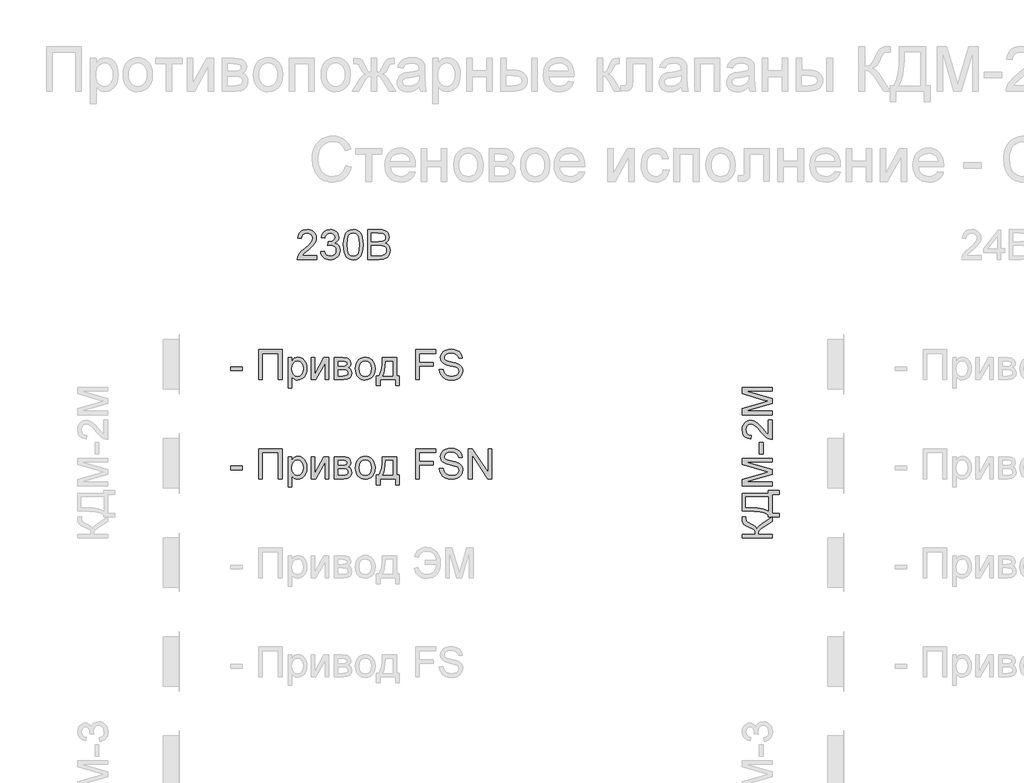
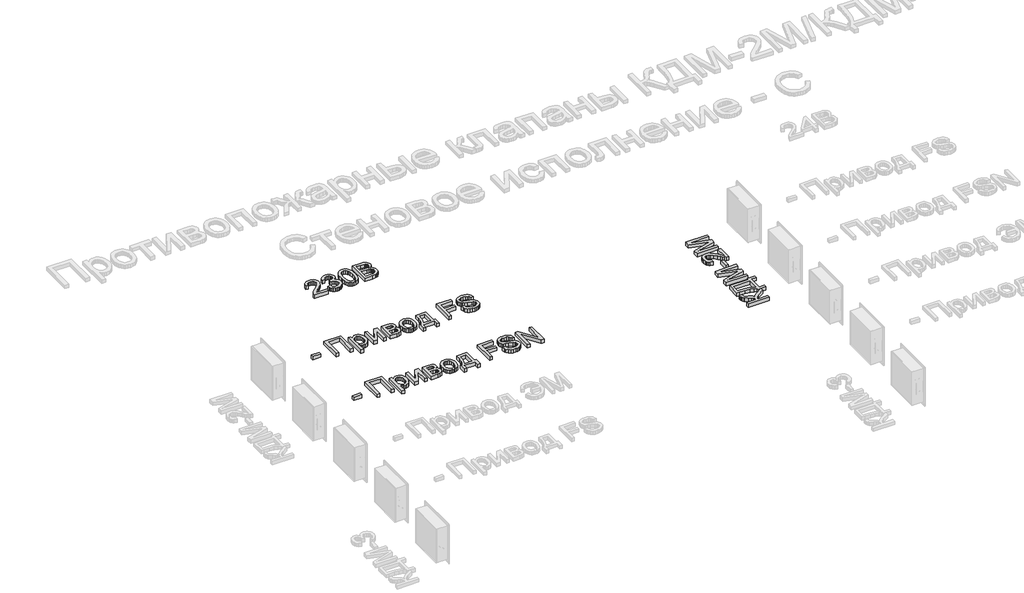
# One storey, part 20 of 23: 4 proxies.
"""IFC4 building model written with IfcOpenShell, lengths in millimetres."""

from ifc_helpers import new_model, si_unit, origin, origin_with_axes, place, context, project, spatial, polyline, outline, extrude, element, save

model = new_model("IFC4")

# Units and contexts
model_context = context("Model", 3, world=origin())
ifc_project = project(units=[si_unit("LENGTHUNIT", "METRE", prefix="MILLI")], contexts=[model_context])

# Site, building, storey
site = spatial("IfcSite", under=ifc_project)
building = spatial("IfcBuilding", under=site)
storey = spatial("IfcBuildingStorey", under=building, Name="Этаж 01", Elevation=0.0)

# Proxies
placement = place(None, origin())
element("IfcBuildingElementProxy", 1, Name="300 мм Arial", ObjectType="300 мм Arial", at=placement, inside=storey, context=model_context, shape_type="SweptSolid", body=[
    extrude(outline(polyline([(17804.7738082, -4434.3206311), (17804.7738082, -4396.6495148), (17922.4960467, -4396.6495148), (17922.4960467, -4434.3206311), (17804.7738082, -4434.3206311)])), origin_with_axes(), (0.0, 0.0, 1.0), 50.0),
    extrude(outline(polyline([(18087.3071805, -4222.4206019), (18322.7516574, -4222.4206019), (18322.7516574, -4523.7895324), (18285.0805411, -4523.7895324), (18285.0805411, -4260.0917182), (18124.9782968, -4260.0917182), (18124.9782968, -4523.7895324), (18087.3071805, -4523.7895324), (18087.3071805, -4222.4206019)])), origin_with_axes(), (0.0, 0.0, 1.0), 50.0),
    extrude(outline(polyline([(18383.9672214, -4608.5495441), (18383.9672214, -4302.4717241), (18421.6383378, -4302.4717241), (18421.6383378, -4339.4070764), (18433.9255964, -4321.1877206), (18447.684383, -4308.173895), (18463.724038, -4300.3655996), (18482.8539017, -4297.7628345), (18508.3297299, -4301.4048663), (18530.6049847, -4312.3309615), (18548.7415671, -4329.8789327), (18561.8013779, -4353.3865922), (18569.6924467, -4381.1432887), (18572.322803, -4411.438371), (18569.3521559, -4443.6556368), (18560.4402145, -4472.469994), (18545.8720875, -4496.4191119), (18525.9328834, -4514.0406595), (18502.7103324, -4524.8839813), (18478.292165, -4528.4984219), (18460.9741201, -4526.0795978), (18445.5138792, -4518.8231254), (18432.2793245, -4507.869439), (18421.6383378, -4494.3589728), (18421.6383378, -4608.5495441), (18383.9672214, -4608.5495441)]), holes=[polyline([(18421.6383378, -4414.8964618), (18425.7126308, -4448.668029), (18437.9355101, -4472.286053), (18455.970925, -4486.1919925), (18477.4828246, -4490.8273056), (18499.3442122, -4486.0264456), (18517.8394795, -4471.6238655), (18530.4486349, -4447.1413187), (18534.6516867, -4412.1005586), (18530.5498024, -4378.5129325), (18518.2441497, -4354.5638146), (18500.236326, -4340.2164168), (18479.027929, -4335.4339508), (18457.7367585, -4340.5199194), (18439.0391561, -4355.7778252), (18425.9885423, -4380.7294215), (18421.6383378, -4414.8964618)])]), origin_with_axes(), (0.0, 0.0, 1.0), 50.0),
    extrude(outline(polyline([(18614.7028088, -4302.4717241), (18652.3739251, -4302.4717241), (18652.3739251, -4471.2559835), (18744.9330351, -4302.4717241), (18793.6406113, -4302.4717241), (18793.6406113, -4523.7895324), (18755.969495, -4523.7895324), (18755.969495, -4356.0353426), (18663.9989962, -4523.7895324), (18614.7028088, -4523.7895324), (18614.7028088, -4302.4717241)])), origin_with_axes(), (0.0, 0.0, 1.0), 50.0),
    extrude(outline(polyline([(18850.1472857, -4302.4717241), (18933.1414638, -4302.4717241), (18959.8221055, -4303.7317199), (18978.6484666, -4307.5117074), (18992.4992238, -4314.6486181), (19004.2530535, -4325.9793836), (19012.2820781, -4340.7406486), (19014.9584196, -4358.1690581), (19013.3397388, -4372.2129533), (19008.4836965, -4384.325468), (19000.3718985, -4394.5617845), (18988.9859507, -4402.9770852), (19002.9286783, -4410.8037746), (19014.296232, -4423.3945359), (19021.856207, -4439.7560876), (19024.3761986, -4458.8951484), (19017.993446, -4487.6083381), (19002.8183137, -4507.8234538), (18978.7956194, -4519.7980127), (18945.8701809, -4523.7895324), (18850.1472857, -4523.7895324), (18850.1472857, -4302.4717241)]), holes=[polyline([(18887.818402, -4486.1184161), (18934.0243806, -4486.1184161), (18959.2059032, -4484.4169618), (18975.0064349, -4479.3125992), (18983.4861149, -4470.0327758), (18986.7050823, -4455.8049397), (18985.0955986, -4446.3779635), (18980.2671474, -4437.6683573), (18972.8543252, -4430.8533433), (18963.4917284, -4427.110144), (18930.3455607, -4424.9028521), (18887.818402, -4424.9028521), (18887.818402, -4486.1184161)]), polyline([(18887.818402, -4387.2317358), (18925.04806, -4387.2317358), (18955.7662065, -4385.3187494), (18970.7022156, -4377.6668039), (18975.6410313, -4371.3392336), (18977.2873033, -4363.8344409), (18974.3994296, -4352.5956459), (18965.7358086, -4345.3667647), (18950.0824297, -4341.4488215), (18926.2252823, -4340.1428404), (18887.818402, -4340.1428404), (18887.818402, -4387.2317358)])]), origin_with_axes(), (0.0, 0.0, 1.0), 50.0),
    extrude(outline(polyline([(19062.047315, -4413.1306282), (19064.0844615, -4384.4680223), (19070.1959011, -4359.7693448), (19080.3816339, -4339.0345959), (19094.6416597, -4322.2637754), (19108.9982546, -4311.5446138), (19124.8447715, -4303.8880698), (19142.1812106, -4299.2941433), (19161.0075717, -4297.7628345), (19181.7906051, -4299.6275364), (19200.5824773, -4305.221642), (19217.3831882, -4314.5451513), (19232.1927377, -4327.5980643), (19244.2799605, -4343.9389227), (19252.9136911, -4363.126268), (19258.0939294, -4385.1601003), (19259.8206756, -4410.0404195), (19256.767255, -4448.0978119), (19247.6069933, -4477.068519), (19232.606605, -4498.7643596), (19212.0328044, -4514.9971527), (19187.5962429, -4525.1231046), (19161.0075717, -4528.4984219), (19139.9210355, -4526.6406178), (19120.9544194, -4521.0672056), (19104.1077233, -4511.7781852), (19089.3809472, -4498.7735567), (19077.4224831, -4482.2740492), (19068.880723, -4462.500392), (19063.755667, -4439.452585), (19062.047315, -4413.1306282)]), holes=[polyline([(19099.7184313, -4413.0570518), (19104.0778329, -4447.1505157), (19117.1560378, -4471.4399245), (19136.8377246, -4485.9804603), (19161.0075717, -4490.8273056), (19185.0670541, -4485.9528692), (19204.7119527, -4471.3295599), (19217.7901576, -4446.7182544), (19222.1495593, -4411.8798294), (19217.7625665, -4378.7796469), (19204.6015881, -4354.821332), (19184.9290984, -4340.2807961), (19161.0075717, -4335.4339508), (19136.8377246, -4340.262402), (19117.1560378, -4354.7477556), (19104.0778329, -4378.981982), (19099.7184313, -4413.0570518)])]), origin_with_axes(), (0.0, 0.0, 1.0), 50.0),
    extrude(outline(polyline([(19335.1629082, -4302.4717241), (19476.4295943, -4302.4717241), (19476.4295943, -4486.1184161), (19504.6829316, -4486.1184161), (19504.6829316, -4585.0050964), (19467.0118152, -4585.0050964), (19467.0118152, -4523.7895324), (19311.6184605, -4523.7895324), (19311.6184605, -4585.0050964), (19273.9473442, -4585.0050964), (19273.9473442, -4486.1184161), (19297.4917919, -4486.1184161), (19314.6075017, -4455.1887373), (19326.5912577, -4414.2710624), (19333.4430598, -4363.3653913), (19335.1629082, -4302.4717241)]), holes=[polyline([(19368.1251349, -4340.1428404), (19365.0349262, -4386.2660455), (19359.2959671, -4425.9697099), (19350.9082576, -4459.2538334), (19339.8717977, -4486.1184161), (19438.758478, -4486.1184161), (19438.758478, -4340.1428404), (19368.1251349, -4340.1428404)])]), origin_with_axes(), (0.0, 0.0, 1.0), 50.0),
    extrude(outline(polyline([(19669.4940654, -4523.7895324), (19669.4940654, -4222.4206019), (19871.9763155, -4222.4206019), (19871.9763155, -4260.0917182), (19707.1651817, -4260.0917182), (19707.1651817, -4349.5606195), (19848.4318678, -4349.5606195), (19848.4318678, -4387.2317358), (19707.1651817, -4387.2317358), (19707.1651817, -4523.7895324), (19669.4940654, -4523.7895324)])), origin_with_axes(), (0.0, 0.0, 1.0), 50.0),
    extrude(outline(polyline([(19909.6474318, -4420.1939625), (19947.3185481, -4420.1939625), (19951.6411616, -4441.0988569), (19959.458654, -4457.901867), (19971.6539421, -4471.2375894), (19989.1099428, -4481.7406203), (20010.4470985, -4488.5556343), (20034.2858518, -4490.8273056), (20055.2735196, -4489.1074573), (20073.6492253, -4483.9479123), (20088.539249, -4475.780932), (20099.0698712, -4465.0387777), (20105.3330621, -4452.7055339), (20107.4207924, -4439.7652847), (20105.857294, -4427.1561293), (20101.1667985, -4416.2576252), (20091.6386549, -4406.9594078), (20075.5622117, -4399.1511124), (20020.7110062, -4384.7669264), (19984.7045559, -4375.2479798), (19961.665946, -4366.1888856), (19942.9131613, -4353.5153509), (19929.6234242, -4338.1562776), (19921.7047642, -4320.4427595), (19919.0652109, -4300.7058905), (19922.3301636, -4278.6421678), (19932.1250217, -4258.0683673), (19948.1922679, -4240.6307607), (19970.2743846, -4227.97562), (19996.7802824, -4220.2776893), (20026.1188715, -4217.7117124), (20057.9038759, -4220.3972509), (20085.7157547, -4228.4538666), (20108.5612266, -4241.7160126), (20125.4470102, -4260.0181418), (20136.1339822, -4282.2198202), (20140.3830192, -4307.1806136), (20102.7119029, -4307.1806136), (20095.7957214, -4284.7030237), (20081.3747472, -4268.4794277), (20058.841975, -4258.6569784), (20027.5903995, -4255.3828287), (19995.60306, -4258.6201902), (19973.658899, -4268.3322749), (19960.9669702, -4282.6244904), (19956.7363272, -4299.6022445), (19959.7345655, -4314.078401), (19968.7292803, -4325.7218662), (19989.9928596, -4336.1329266), (20030.2391499, -4346.7647163), (20071.7730271, -4356.8630771), (20096.8993674, -4365.6738508), (20118.3744789, -4379.340667), (20133.3564731, -4396.2080564), (20142.1580498, -4416.0920783), (20145.0919088, -4438.8087915), (20141.7165914, -4462.0313424), (20131.5906395, -4483.8743359), (20115.1279202, -4502.6731058), (20092.7423008, -4516.7629863), (20065.8225358, -4525.564563), (20035.7573798, -4528.4984219), (19998.8496186, -4525.3346367), (19968.4717629, -4515.8432813), (19944.2743246, -4499.9875673), (19925.907816, -4477.7307066), (19914.1171981, -4450.6178035), (19909.6474318, -4420.1939625)])), origin_with_axes(), (0.0, 0.0, 1.0), 50.0),
])
element("IfcBuildingElementProxy", 2, Name="300 мм Arial", ObjectType="300 мм Arial", at=placement, inside=storey, context=model_context, shape_type="SweptSolid", body=[
    extrude(outline(polyline([(17804.7738082, -5434.3206311), (17804.7738082, -5396.6495148), (17922.4960467, -5396.6495148), (17922.4960467, -5434.3206311), (17804.7738082, -5434.3206311)])), origin_with_axes(), (0.0, 0.0, 1.0), 50.0),
    extrude(outline(polyline([(18087.3071805, -5222.4206019), (18322.7516574, -5222.4206019), (18322.7516574, -5523.7895324), (18285.0805411, -5523.7895324), (18285.0805411, -5260.0917182), (18124.9782968, -5260.0917182), (18124.9782968, -5523.7895324), (18087.3071805, -5523.7895324), (18087.3071805, -5222.4206019)])), origin_with_axes(), (0.0, 0.0, 1.0), 50.0),
    extrude(outline(polyline([(18383.9672214, -5608.5495441), (18383.9672214, -5302.4717241), (18421.6383378, -5302.4717241), (18421.6383378, -5339.4070764), (18433.9255964, -5321.1877206), (18447.684383, -5308.173895), (18463.724038, -5300.3655996), (18482.8539017, -5297.7628345), (18508.3297299, -5301.4048663), (18530.6049847, -5312.3309615), (18548.7415671, -5329.8789327), (18561.8013779, -5353.3865922), (18569.6924467, -5381.1432887), (18572.322803, -5411.438371), (18569.3521559, -5443.6556368), (18560.4402145, -5472.469994), (18545.8720875, -5496.4191119), (18525.9328834, -5514.0406595), (18502.7103324, -5524.8839813), (18478.292165, -5528.4984219), (18460.9741201, -5526.0795978), (18445.5138792, -5518.8231254), (18432.2793245, -5507.869439), (18421.6383378, -5494.3589728), (18421.6383378, -5608.5495441), (18383.9672214, -5608.5495441)]), holes=[polyline([(18421.6383378, -5414.8964618), (18425.7126308, -5448.668029), (18437.9355101, -5472.286053), (18455.970925, -5486.1919925), (18477.4828246, -5490.8273056), (18499.3442122, -5486.0264456), (18517.8394795, -5471.6238655), (18530.4486349, -5447.1413187), (18534.6516867, -5412.1005586), (18530.5498024, -5378.5129325), (18518.2441497, -5354.5638146), (18500.236326, -5340.2164168), (18479.027929, -5335.4339508), (18457.7367585, -5340.5199194), (18439.0391561, -5355.7778252), (18425.9885423, -5380.7294215), (18421.6383378, -5414.8964618)])]), origin_with_axes(), (0.0, 0.0, 1.0), 50.0),
    extrude(outline(polyline([(18614.7028088, -5302.4717241), (18652.3739251, -5302.4717241), (18652.3739251, -5471.2559835), (18744.9330351, -5302.4717241), (18793.6406113, -5302.4717241), (18793.6406113, -5523.7895324), (18755.969495, -5523.7895324), (18755.969495, -5356.0353426), (18663.9989962, -5523.7895324), (18614.7028088, -5523.7895324), (18614.7028088, -5302.4717241)])), origin_with_axes(), (0.0, 0.0, 1.0), 50.0),
    extrude(outline(polyline([(18850.1472857, -5302.4717241), (18933.1414638, -5302.4717241), (18959.8221055, -5303.7317199), (18978.6484666, -5307.5117074), (18992.4992238, -5314.6486181), (19004.2530535, -5325.9793836), (19012.2820781, -5340.7406486), (19014.9584196, -5358.1690581), (19013.3397388, -5372.2129533), (19008.4836965, -5384.325468), (19000.3718985, -5394.5617845), (18988.9859507, -5402.9770852), (19002.9286783, -5410.8037746), (19014.296232, -5423.3945359), (19021.856207, -5439.7560876), (19024.3761986, -5458.8951484), (19017.993446, -5487.6083381), (19002.8183137, -5507.8234538), (18978.7956194, -5519.7980127), (18945.8701809, -5523.7895324), (18850.1472857, -5523.7895324), (18850.1472857, -5302.4717241)]), holes=[polyline([(18887.818402, -5486.1184161), (18934.0243806, -5486.1184161), (18959.2059032, -5484.4169618), (18975.0064349, -5479.3125992), (18983.4861149, -5470.0327758), (18986.7050823, -5455.8049397), (18985.0955986, -5446.3779635), (18980.2671474, -5437.6683573), (18972.8543252, -5430.8533433), (18963.4917284, -5427.110144), (18930.3455607, -5424.9028521), (18887.818402, -5424.9028521), (18887.818402, -5486.1184161)]), polyline([(18887.818402, -5387.2317358), (18925.04806, -5387.2317358), (18955.7662065, -5385.3187494), (18970.7022156, -5377.6668039), (18975.6410313, -5371.3392336), (18977.2873033, -5363.8344409), (18974.3994296, -5352.5956459), (18965.7358086, -5345.3667647), (18950.0824297, -5341.4488215), (18926.2252823, -5340.1428404), (18887.818402, -5340.1428404), (18887.818402, -5387.2317358)])]), origin_with_axes(), (0.0, 0.0, 1.0), 50.0),
    extrude(outline(polyline([(19062.047315, -5413.1306282), (19064.0844615, -5384.4680223), (19070.1959011, -5359.7693448), (19080.3816339, -5339.0345959), (19094.6416597, -5322.2637754), (19108.9982546, -5311.5446138), (19124.8447715, -5303.8880698), (19142.1812106, -5299.2941433), (19161.0075717, -5297.7628345), (19181.7906051, -5299.6275364), (19200.5824773, -5305.221642), (19217.3831882, -5314.5451513), (19232.1927377, -5327.5980643), (19244.2799605, -5343.9389227), (19252.9136911, -5363.126268), (19258.0939294, -5385.1601003), (19259.8206756, -5410.0404195), (19256.767255, -5448.0978119), (19247.6069933, -5477.068519), (19232.606605, -5498.7643596), (19212.0328044, -5514.9971527), (19187.5962429, -5525.1231046), (19161.0075717, -5528.4984219), (19139.9210355, -5526.6406178), (19120.9544194, -5521.0672056), (19104.1077233, -5511.7781852), (19089.3809472, -5498.7735567), (19077.4224831, -5482.2740492), (19068.880723, -5462.500392), (19063.755667, -5439.452585), (19062.047315, -5413.1306282)]), holes=[polyline([(19099.7184313, -5413.0570518), (19104.0778329, -5447.1505157), (19117.1560378, -5471.4399245), (19136.8377246, -5485.9804603), (19161.0075717, -5490.8273056), (19185.0670541, -5485.9528692), (19204.7119527, -5471.3295599), (19217.7901576, -5446.7182544), (19222.1495593, -5411.8798294), (19217.7625665, -5378.7796469), (19204.6015881, -5354.821332), (19184.9290984, -5340.2807961), (19161.0075717, -5335.4339508), (19136.8377246, -5340.262402), (19117.1560378, -5354.7477556), (19104.0778329, -5378.981982), (19099.7184313, -5413.0570518)])]), origin_with_axes(), (0.0, 0.0, 1.0), 50.0),
    extrude(outline(polyline([(19335.1629082, -5302.4717241), (19476.4295943, -5302.4717241), (19476.4295943, -5486.1184161), (19504.6829316, -5486.1184161), (19504.6829316, -5585.0050964), (19467.0118152, -5585.0050964), (19467.0118152, -5523.7895324), (19311.6184605, -5523.7895324), (19311.6184605, -5585.0050964), (19273.9473442, -5585.0050964), (19273.9473442, -5486.1184161), (19297.4917919, -5486.1184161), (19314.6075017, -5455.1887373), (19326.5912577, -5414.2710624), (19333.4430598, -5363.3653913), (19335.1629082, -5302.4717241)]), holes=[polyline([(19368.1251349, -5340.1428404), (19365.0349262, -5386.2660455), (19359.2959671, -5425.9697099), (19350.9082576, -5459.2538334), (19339.8717977, -5486.1184161), (19438.758478, -5486.1184161), (19438.758478, -5340.1428404), (19368.1251349, -5340.1428404)])]), origin_with_axes(), (0.0, 0.0, 1.0), 50.0),
    extrude(outline(polyline([(19669.4940654, -5523.7895324), (19669.4940654, -5222.4206019), (19871.9763155, -5222.4206019), (19871.9763155, -5260.0917182), (19707.1651817, -5260.0917182), (19707.1651817, -5349.5606195), (19848.4318678, -5349.5606195), (19848.4318678, -5387.2317358), (19707.1651817, -5387.2317358), (19707.1651817, -5523.7895324), (19669.4940654, -5523.7895324)])), origin_with_axes(), (0.0, 0.0, 1.0), 50.0),
    extrude(outline(polyline([(19909.6474318, -5420.1939625), (19947.3185481, -5420.1939625), (19951.6411616, -5441.0988569), (19959.458654, -5457.901867), (19971.6539421, -5471.2375894), (19989.1099428, -5481.7406203), (20010.4470985, -5488.5556343), (20034.2858518, -5490.8273056), (20055.2735196, -5489.1074573), (20073.6492253, -5483.9479123), (20088.539249, -5475.780932), (20099.0698712, -5465.0387777), (20105.3330621, -5452.7055339), (20107.4207924, -5439.7652847), (20105.857294, -5427.1561293), (20101.1667985, -5416.2576252), (20091.6386549, -5406.9594078), (20075.5622117, -5399.1511124), (20020.7110062, -5384.7669264), (19984.7045559, -5375.2479798), (19961.665946, -5366.1888856), (19942.9131613, -5353.5153509), (19929.6234242, -5338.1562776), (19921.7047642, -5320.4427595), (19919.0652109, -5300.7058905), (19922.3301636, -5278.6421678), (19932.1250217, -5258.0683673), (19948.1922679, -5240.6307607), (19970.2743846, -5227.97562), (19996.7802824, -5220.2776893), (20026.1188715, -5217.7117124), (20057.9038759, -5220.3972509), (20085.7157547, -5228.4538666), (20108.5612266, -5241.7160126), (20125.4470102, -5260.0181418), (20136.1339822, -5282.2198202), (20140.3830192, -5307.1806136), (20102.7119029, -5307.1806136), (20095.7957214, -5284.7030237), (20081.3747472, -5268.4794277), (20058.841975, -5258.6569784), (20027.5903995, -5255.3828287), (19995.60306, -5258.6201902), (19973.658899, -5268.3322749), (19960.9669702, -5282.6244904), (19956.7363272, -5299.6022445), (19959.7345655, -5314.078401), (19968.7292803, -5325.7218662), (19989.9928596, -5336.1329266), (20030.2391499, -5346.7647163), (20071.7730271, -5356.8630771), (20096.8993674, -5365.6738508), (20118.3744789, -5379.340667), (20133.3564731, -5396.2080564), (20142.1580498, -5416.0920783), (20145.0919088, -5438.8087915), (20141.7165914, -5462.0313424), (20131.5906395, -5483.8743359), (20115.1279202, -5502.6731058), (20092.7423008, -5516.7629863), (20065.8225358, -5525.564563), (20035.7573798, -5528.4984219), (19998.8496186, -5525.3346367), (19968.4717629, -5515.8432813), (19944.2743246, -5499.9875673), (19925.907816, -5477.7307066), (19914.1171981, -5450.6178035), (19909.6474318, -5420.1939625)])), origin_with_axes(), (0.0, 0.0, 1.0), 50.0),
    extrude(outline(polyline([(20201.5985832, -5523.7895324), (20201.5985832, -5222.4206019), (20241.9184499, -5222.4206019), (20399.3719438, -5461.1760168), (20399.3719438, -5222.4206019), (20437.0430601, -5222.4206019), (20437.0430601, -5523.7895324), (20396.7231935, -5523.7895324), (20239.2696995, -5284.9605411), (20239.2696995, -5523.7895324), (20201.5985832, -5523.7895324)])), origin_with_axes(), (0.0, 0.0, 1.0), 50.0),
])
element("IfcBuildingElementProxy", 3, Name="300 мм Arial", ObjectType="300 мм Arial", at=placement, inside=storey, context=model_context, shape_type="SweptSolid", body=[
    extrude(outline(polyline([(18672.9728635, -3273.066365), (18672.9728635, -3310.7374813), (18475.1995029, -3310.7374813), (18479.2462048, -3284.7650124), (18488.5352252, -3264.4671233), (18502.1284649, -3244.7762395), (18521.7917576, -3224.1656508), (18549.2909367, -3201.1086467), (18589.9418972, -3165.0010289), (18614.3324735, -3138.3479783), (18626.5277616, -3116.716517), (18630.5928576, -3095.6736669), (18626.7576878, -3076.8105176), (18615.2521784, -3061.1295476), (18597.5662515, -3050.5621372), (18575.1898292, -3047.0396671), (18551.6913667, -3050.4793638), (18533.4352227, -3060.7984538), (18521.6538018, -3077.1875966), (18517.5795087, -3098.8374521), (18479.9083924, -3094.1285625), (18489.041063, -3057.6898509), (18497.5874216, -3043.1539136), (18508.787129, -3031.0735886), (18522.382668, -3021.5776346), (18538.1165211, -3014.7948103), (18575.9991696, -3009.3685508), (18596.1889933, -3010.876867), (18614.1577295, -3015.4018156), (18629.9053782, -3022.9433965), (18643.4319393, -3033.5016097), (18654.2959544, -3046.2947061), (18662.0559653, -3060.5409364), (18666.7119718, -3076.2403005), (18668.263974, -3093.3927985), (18666.5901109, -3111.4098192), (18661.5685216, -3129.1141403), (18652.6565803, -3147.1219639), (18639.3116609, -3166.0494926), (18618.0388846, -3188.6466441), (18585.3433722, -3217.6633365), (18542.0068732, -3253.899713), (18525.010725, -3273.066365), (18672.9728635, -3273.066365)])), origin_with_axes(), (0.0, 0.0, 1.0), 50.0),
    extrude(outline(polyline([(18710.6439798, -3230.6863591), (18748.3150961, -3225.9774696), (18756.7487908, -3249.650676), (18769.1004288, -3265.6351487), (18785.9770154, -3274.7402281), (18807.9855557, -3277.7752545), (18833.8108718, -3273.5997939), (18853.7500759, -3261.0734119), (18866.4971871, -3242.3850066), (18870.7462241, -3219.7234757), (18866.5339753, -3198.211576), (18853.8972287, -3180.7647724), (18834.767365, -3169.2040807), (18811.0757645, -3165.3505168), (18784.6618372, -3169.4707951), (18788.855692, -3131.7996788), (18794.8889567, -3132.2411372), (18817.4585171, -3129.5372046), (18837.6368445, -3121.4254066), (18851.8738777, -3107.7034081), (18856.6195555, -3088.1688742), (18853.1798588, -3071.899293), (18842.8607689, -3058.7015264), (18827.1154195, -3049.955132), (18807.3969445, -3047.0396671), (18787.6416814, -3049.9827231), (18771.4916618, -3058.811891), (18759.7010439, -3073.5271708), (18753.0239856, -3094.1285625), (18715.3528693, -3089.419673), (18726.4445115, -3055.5929235), (18746.1813805, -3030.3378246), (18773.183919, -3014.6108693), (18806.0725693, -3009.3685508), (18829.7549728, -3011.9529219), (18851.5059957, -3019.7060349), (18869.8449132, -3031.9381112), (18883.2910001, -3047.9593721), (18891.5407539, -3066.4178512), (18894.2906718, -3085.9615822), (18891.6787096, -3104.171741), (18883.8428231, -3120.6896426), (18870.8933769, -3134.7611289), (18852.9407355, -3145.6320418), (18876.5219714, -3155.1601855), (18893.9963662, -3171.3837815), (18904.8120968, -3193.419913), (18908.4173404, -3220.3856633), (18906.6147186, -3239.4971329), (18901.2068533, -3257.1002864), (18892.1937444, -3273.1951237), (18879.575392, -3287.7816448), (18864.2025231, -3299.8849624), (18846.9258649, -3308.5301893), (18827.7454174, -3313.7173254), (18806.6611805, -3315.4463708), (18787.6048932, -3313.9702443), (18770.240863, -3309.5418648), (18754.56909, -3302.1612323), (18740.5895742, -3291.8283467), (18728.8679341, -3279.1502135), (18719.9697884, -3264.7338378), (18713.8951369, -3248.5792197), (18710.6439798, -3230.6863591)])), origin_with_axes(), (0.0, 0.0, 1.0), 50.0),
    extrude(outline(polyline([(18941.3795672, -3162.4810372), (18944.1478792, -3114.2425106), (18952.4528152, -3075.771251), (18966.2116018, -3046.4786471), (18985.3414656, -3025.7760878), (19009.9803622, -3013.4704351), (19040.2662475, -3009.3685508), (19063.4796014, -3011.796572), (19084.2649341, -3019.0806355), (19101.6473584, -3030.9356328), (19114.6519869, -3047.0764553), (19124.4744362, -3067.3651474), (19132.3103227, -3091.6637532), (19137.4422765, -3122.5198555), (19139.1529278, -3162.4810372), (19136.4122069, -3210.4436523), (19128.1900443, -3248.8229415), (19114.5140312, -3278.1431365), (19095.4117586, -3298.9284692), (19070.7176796, -3311.3168954), (19040.2662475, -3315.4463708), (19019.5177029, -3313.6529461), (19001.1236032, -3308.2726719), (18985.0839482, -3299.3055483), (18971.398738, -3286.7515752), (18958.2653507, -3264.0578546), (18948.8843599, -3235.7815248), (18943.2557653, -3201.9225856), (18941.3795672, -3162.4810372)]), holes=[polyline([(18979.0506835, -3162.4074608), (18983.4652674, -3221.6640532), (18988.9834973, -3241.9320519), (18996.7090192, -3255.9598522), (19016.4274942, -3272.3214039), (19040.2662475, -3277.7752545), (19064.1050008, -3272.3030098), (19083.8234757, -3255.8862758), (19091.5489976, -3241.8354829), (19097.0672275, -3221.5720827), (19101.4818115, -3162.4074608), (19097.2143803, -3104.4844407), (19091.8800914, -3084.2831206), (19084.4120869, -3069.9219272), (19064.7304002, -3052.7602322), (19039.8247891, -3047.0396671), (19016.2435532, -3052.0796505), (18997.2976304, -3067.1996005), (18989.3145911, -3082.8345853), (18983.6124202, -3103.9142236), (18979.0506835, -3162.4074608)])]), origin_with_axes(), (0.0, 0.0, 1.0), 50.0),
    extrude(outline(polyline([(19186.2418232, -3310.7374813), (19186.2418232, -3009.3685508), (19301.2417349, -3009.3685508), (19332.8703894, -3011.5850399), (19357.5644683, -3018.2345069), (19376.491997, -3029.4824989), (19390.8210007, -3045.4945628), (19399.8433066, -3064.3301209), (19402.8507419, -3084.0485959), (19400.3215532, -3102.1943753), (19392.7339871, -3119.2549028), (19380.0328612, -3134.1817147), (19362.1629933, -3145.9263474), (19383.509346, -3157.0731719), (19399.2822866, -3174.0325319), (19409.0219624, -3195.6823873), (19412.268521, -3220.9006981), (19410.052032, -3241.915957), (19403.4025649, -3261.4045057), (19393.4789481, -3277.9775896), (19381.4400098, -3290.2464542), (19366.6971388, -3299.1308043), (19348.661724, -3305.5503452), (19300.3588181, -3310.7374813), (19186.2418232, -3310.7374813)]), holes=[polyline([(19223.9129395, -3131.7996788), (19292.7068726, -3131.7996788), (19332.8795864, -3128.5623173), (19346.9418757, -3122.979708), (19357.0494335, -3114.6195897), (19363.1470776, -3103.6107209), (19365.1796256, -3090.0818606), (19363.2850333, -3076.9484733), (19357.6012565, -3065.5073433), (19348.3858125, -3056.5770079), (19335.8962188, -3050.9760045), (19287.4829482, -3047.0396671), (19223.9129395, -3047.0396671), (19223.9129395, -3131.7996788)]), polyline([(19223.9129395, -3273.066365), (19301.1681585, -3273.066365), (19329.1271901, -3271.594837), (19352.7820024, -3263.3910685), (19368.4537754, -3246.6524377), (19373.0614974, -3234.8250316), (19374.5974047, -3221.2685801), (19372.7947829, -3205.5232307), (19367.3869176, -3191.9851732), (19357.9415474, -3181.3993688), (19344.0264109, -3174.5107785), (19324.317133, -3170.730791), (19297.4893385, -3169.4707951), (19223.9129395, -3169.4707951), (19223.9129395, -3273.066365)])]), origin_with_axes(), (0.0, 0.0, 1.0), 50.0),
])
element("IfcBuildingElementProxy", 4, Name="300 мм Arial", ObjectType="300 мм Arial", at=placement, inside=storey, context=model_context, shape_type="SweptSolid", body=[
    extrude(outline(polyline([(22962.355345, -6122.4984014), (22962.355345, -6084.8272851), (23094.2042521, -6084.8272851), (23091.7118516, -6059.3238658), (23084.23465, -6042.7047967), (23066.6406936, -6029.2679068), (23033.7980285, -6013.3110252), (22991.6755401, -5992.5256925), (22980.2620012, -5982.5009082), (22970.8166309, -5968.9812448), (22964.4706665, -5952.9323928), (22962.355345, -5935.3200423), (22962.7968034, -5910.5983722), (23000.4679197, -5910.5983722), (23000.2471905, -5918.9125053), (23000.0264613, -5927.2266384), (23002.2889356, -5944.4803039), (23009.0763584, -5956.657198), (23023.3317857, -5967.1418349), (23047.8511207, -5979.0244233), (23078.3853263, -5993.6017474), (23095.0871689, -6005.6958679), (23110.6853655, -6031.705125), (23116.8933742, -6017.1140054), (23127.7183019, -6002.6240533), (23163.2189144, -5973.9476518), (23263.7242755, -5910.5983722), (23263.7242755, -5954.3027532), (23178.817111, -6007.8663717), (23151.5846463, -6028.5505369), (23134.4873306, -6045.5742762), (23125.4650246, -6062.9842916), (23122.4575893, -6084.8272851), (23263.7242755, -6084.8272851), (23263.7242755, -6122.4984014), (22962.355345, -6122.4984014)])), origin_with_axes(), (0.0, 0.0, 1.0), 50.0),
    extrude(outline(polyline([(22962.355345, -5849.3828082), (22962.355345, -5670.4450057), (23226.0531592, -5670.4450057), (23226.0531592, -5642.1916685), (23334.3576186, -5642.1916685), (23334.3576186, -5679.8627848), (23263.7242755, -5679.8627848), (23263.7242755, -5872.9272559), (23334.3576186, -5872.9272559), (23334.3576186, -5910.5983722), (23263.7242755, -5910.5983722), (23226.0531592, -5910.5983722), (23226.0531592, -5887.0539245), (23191.8815204, -5870.5728111), (23143.8131392, -5858.8005873), (23081.8480156, -5851.737253), (23005.9861497, -5849.3828082), (22962.355345, -5849.3828082)]), holes=[polyline([(23000.0264613, -5708.116122), (23000.0264613, -5811.7116919), (23015.1831995, -5811.7116919), (23118.4108874, -5819.3636374), (23178.0629529, -5830.6944028), (23226.0531592, -5849.3828082), (23226.0531592, -5708.116122), (23000.0264613, -5708.116122)])]), origin_with_axes(), (0.0, 0.0, 1.0), 50.0),
    extrude(outline(polyline([(23263.7242755, -5595.1027731), (22962.355345, -5595.1027731), (22962.355345, -5530.2819656), (23174.7704091, -5468.6249432), (23219.1369777, -5456.1905318), (23171.0915891, -5442.7260507), (22962.355345, -5382.0990979), (22962.355345, -5317.2782904), (23263.7242755, -5317.2782904), (23263.7242755, -5354.9494067), (23000.0264613, -5354.9494067), (23263.7242755, -5430.6595213), (23263.7242755, -5481.7215422), (23000.0264613, -5557.4316568), (23263.7242755, -5557.4316568), (23263.7242755, -5595.1027731)])), origin_with_axes(), (0.0, 0.0, 1.0), 50.0),
    extrude(outline(polyline([(23174.2553743, -5274.8982845), (23136.584258, -5274.8982845), (23136.584258, -5157.1760461), (23174.2553743, -5157.1760461), (23174.2553743, -5274.8982845)])), origin_with_axes(), (0.0, 0.0, 1.0), 50.0),
    extrude(outline(polyline([(23226.0531592, -4931.1493482), (23263.7242755, -4931.1493482), (23263.7242755, -5128.9227088), (23237.7518066, -5124.8760069), (23217.4539175, -5115.5869865), (23197.7630338, -5101.9937468), (23177.152445, -5082.3304542), (23154.0954409, -5054.831275), (23117.9878231, -5014.1803145), (23091.3347725, -4989.7897383), (23069.7033112, -4977.5944501), (23048.6604611, -4973.5293541), (23029.7973118, -4977.3645239), (23014.1163418, -4988.8700333), (23003.5489314, -5006.5559602), (23000.0264613, -5028.9323826), (23003.466158, -5052.430845), (23013.785248, -5070.686989), (23030.1743908, -5082.4684099), (23051.8242463, -5086.542703), (23047.1153567, -5124.2138193), (23010.6766451, -5115.0811488), (22996.1407078, -5106.5347902), (22984.0603828, -5095.3350827), (22974.5644288, -5081.7395437), (22967.7816045, -5066.0056906), (22962.355345, -5028.1230422), (22963.8636612, -5007.9332184), (22968.3886098, -4989.9644822), (22975.9301907, -4974.2168336), (22986.4884039, -4960.6902724), (22999.2815003, -4949.8262573), (23013.5277306, -4942.0662464), (23029.2270947, -4937.4102399), (23046.3795927, -4935.8582378), (23064.3966134, -4937.5321009), (23082.1009345, -4942.5536901), (23100.1087581, -4951.4656314), (23119.0362868, -4964.8105508), (23141.6334383, -4986.0833272), (23170.6501307, -5018.7788395), (23206.8865072, -5062.1153385), (23226.0531592, -5079.1114867), (23226.0531592, -4931.1493482)])), origin_with_axes(), (0.0, 0.0, 1.0), 50.0),
    extrude(outline(polyline([(23263.7242755, -4879.3515633), (22962.355345, -4879.3515633), (22962.355345, -4814.5307558), (23174.7704091, -4752.8737334), (23219.1369777, -4740.4393219), (23171.0915891, -4726.9748409), (22962.355345, -4666.3478881), (22962.355345, -4601.5270806), (23263.7242755, -4601.5270806), (23263.7242755, -4639.1981969), (23000.0264613, -4639.1981969), (23263.7242755, -4714.9083115), (23263.7242755, -4765.9703324), (23000.0264613, -4841.680447), (23263.7242755, -4841.680447), (23263.7242755, -4879.3515633)])), origin_with_axes(), (0.0, 0.0, 1.0), 50.0),
])

save(model, "model.ifc")
